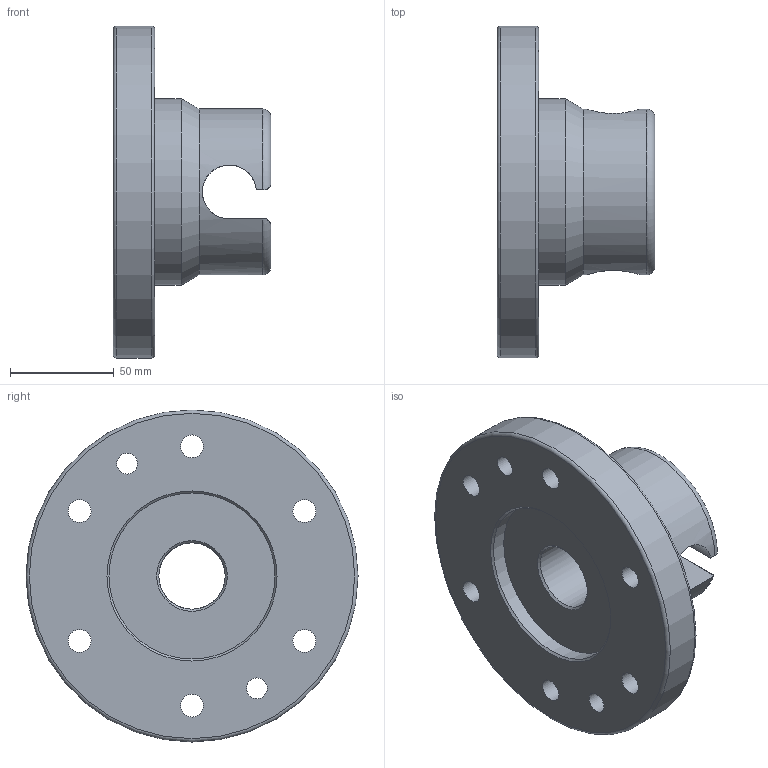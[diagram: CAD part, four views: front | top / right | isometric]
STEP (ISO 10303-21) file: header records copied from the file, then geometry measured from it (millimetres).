
FILE_DESCRIPTION((''),'2;1');
FILE_NAME('T:\CAD\Standard\Daten\Datenbank STANDARD 00\2 SWS\4 - 3D-CAD-Daten SWS 050-160\SWS160-B02\step-Daten\G-SWS160-2U-N-B02.stp','2012-11-22T10:38:32',('Yvonne'),(''),'Autodesk Inventor 2011','Autodesk Inventor 2011','');
FILE_SCHEMA(('AUTOMOTIVE_DESIGN { 1 0 10303 214 1 1 1 1 }'));
Length unit declared in the file: millimetre
Products named in the file (1): G-SWS160-B02-4
Bounding box: 76 x 160 x 160 mm (x, y, z)
Volume: 551283.8 mm3; surface area: 76130.2 mm2
Topology: 1 solids, 1 shells, 49 faces, 114 edges, 74 vertices
Faces by surface type: cylinder 21, plane 19, cone 5, torus 4
Full cylindrical faces by diameter (mm): 10 x2, 11 x6, 18 x6, 32 x1, 80 x2, 90 x1, 160 x1
Entity records: 1520 total; most frequent: CARTESIAN_POINT 426, DIRECTION 224, ORIENTED_EDGE 176, AXIS2_PLACEMENT_3D 102, EDGE_LOOP 98, EDGE_CURVE 88, VERTEX_POINT 72, FACE_OUTER_BOUND 49
